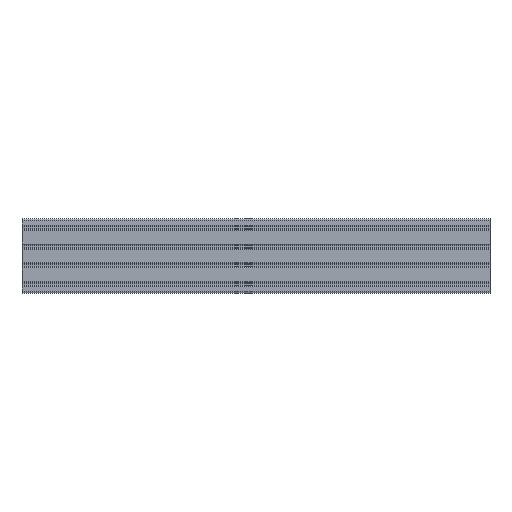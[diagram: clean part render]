
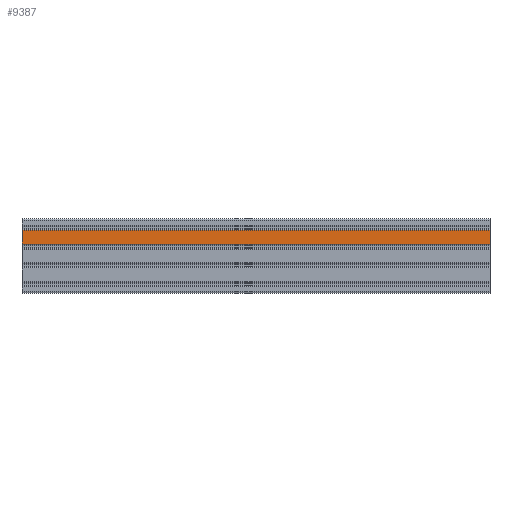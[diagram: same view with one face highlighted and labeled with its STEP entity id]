
A CAD part, front view. The second image highlights one B-rep face of the part: STEP entity #9387.
In plain terms, the highlighted planar face has unit normal (0, -1, 0).
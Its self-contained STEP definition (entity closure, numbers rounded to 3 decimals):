
#141 = LINE ( 'NONE', #7866, #7600 ) ;
#158 = CARTESIAN_POINT ( 'NONE',  ( 1000., -40., 25.5 ) ) ;
#336 = ORIENTED_EDGE ( 'NONE', *, *, #1065, .T. ) ;
#1065 = EDGE_CURVE ( 'NONE', #4854, #3436, #4759, .T. ) ;
#1708 = VERTEX_POINT ( 'NONE', #3632 ) ;
#1837 = EDGE_CURVE ( 'NONE', #3436, #1708, #141, .T. ) ;
#1884 = ORIENTED_EDGE ( 'NONE', *, *, #7268, .F. ) ;
#2157 = EDGE_LOOP ( 'NONE', ( #5065, #1884, #6047, #336 ) ) ;
#2216 = PLANE ( 'NONE',  #7589 ) ;
#3101 = LINE ( 'NONE', #4417, #12215 ) ;
#3304 = VECTOR ( 'NONE', #6982, 1000. ) ;
#3436 = VERTEX_POINT ( 'NONE', #11578 ) ;
#3632 = CARTESIAN_POINT ( 'NONE',  ( 0., -40., 25.5 ) ) ;
#3963 = EDGE_CURVE ( 'NONE', #4854, #5222, #3101, .T. ) ;
#4417 = CARTESIAN_POINT ( 'NONE',  ( 1000., -40., 25.5 ) ) ;
#4696 = CARTESIAN_POINT ( 'NONE',  ( 1000., -40., 25.5 ) ) ;
#4759 = LINE ( 'NONE', #7319, #7016 ) ;
#4854 = VERTEX_POINT ( 'NONE', #11548 ) ;
#4981 = LINE ( 'NONE', #158, #3304 ) ;
#4996 = DIRECTION ( 'NONE',  ( 0., 0., -1. ) ) ;
#5065 = ORIENTED_EDGE ( 'NONE', *, *, #1837, .T. ) ;
#5222 = VERTEX_POINT ( 'NONE', #4696 ) ;
#5404 = DIRECTION ( 'NONE',  ( 0., 0., -1. ) ) ;
#6047 = ORIENTED_EDGE ( 'NONE', *, *, #3963, .F. ) ;
#6143 = DIRECTION ( 'NONE',  ( 0., 0., 1. ) ) ;
#6982 = DIRECTION ( 'NONE',  ( -1., 0., 0. ) ) ;
#7002 = CARTESIAN_POINT ( 'NONE',  ( 1000., -40., 25.5 ) ) ;
#7016 = VECTOR ( 'NONE', #10251, 1000. ) ;
#7268 = EDGE_CURVE ( 'NONE', #5222, #1708, #4981, .T. ) ;
#7319 = CARTESIAN_POINT ( 'NONE',  ( 1000., -40., 54.5 ) ) ;
#7365 = FACE_OUTER_BOUND ( 'NONE', #2157, .T. ) ;
#7589 = AXIS2_PLACEMENT_3D ( 'NONE', #7002, #11950, #6143 ) ;
#7600 = VECTOR ( 'NONE', #4996, 1000. ) ;
#7866 = CARTESIAN_POINT ( 'NONE',  ( 0., -40., 25.5 ) ) ;
#9387 = ADVANCED_FACE ( 'NONE', ( #7365 ), #2216, .F. ) ;
#10251 = DIRECTION ( 'NONE',  ( -1., 0., 0. ) ) ;
#11548 = CARTESIAN_POINT ( 'NONE',  ( 1000., -40., 54.5 ) ) ;
#11578 = CARTESIAN_POINT ( 'NONE',  ( 0., -40., 54.5 ) ) ;
#11950 = DIRECTION ( 'NONE',  ( 0., 1., 0. ) ) ;
#12215 = VECTOR ( 'NONE', #5404, 1000. ) ;
